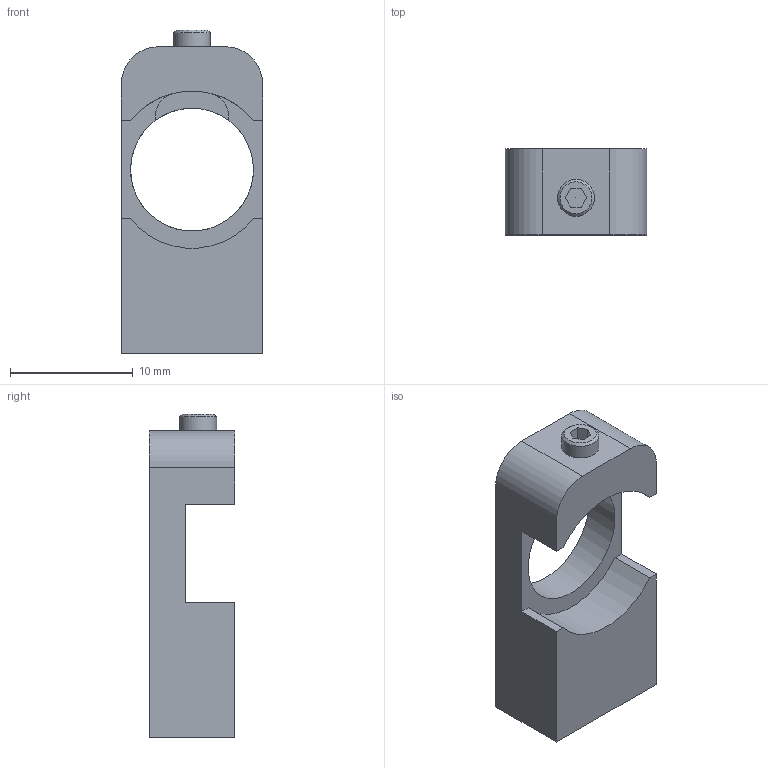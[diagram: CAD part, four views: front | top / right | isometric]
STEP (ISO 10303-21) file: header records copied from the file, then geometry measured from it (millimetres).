
FILE_DESCRIPTION(/* description */ (''),/* implementation_level */ '2;1');
FILE_NAME(/* name */ 'Y:\3DDATA\2_OpticalHard\01_国内製品\2_Holders\TLH\TLH-12.7-DRi-N\TLH-12.7-Dri-N.stp',/* time_stamp */ '2014-10-21T11:42:08+09:00',/* author */ ('e.nonaka'),/* organization */ (''),/* preprocessor_version */ 'ST-DEVELOPER v15.2',/* originating_system */ 'Autodesk Inventor 2014',/* authorisation */ '');
FILE_SCHEMA (('AUTOMOTIVE_DESIGN { 1 0 10303 214 3 1 1 }'));
Length unit declared in the file: millimetre
Products named in the file (1): TLH12.7DriN-M02-13001-TS01
Bounding box: 11.5 x 7 x 26.36 mm (x, y, z)
Volume: 1186.1 mm3; surface area: 1145.6 mm2
Topology: 1 solids, 2 shells, 40 faces, 104 edges, 70 vertices
Faces by surface type: plane 26, cylinder 11, cone 3
Full cylindrical faces by diameter (mm): 1.5 x1, 2.459 x1, 3 x1, 3.242 x1, 10 x1
Entity records: 1207 total; most frequent: CARTESIAN_POINT 236, DIRECTION 198, ORIENTED_EDGE 182, EDGE_CURVE 91, AXIS2_PLACEMENT_3D 68, VERTEX_POINT 65, LINE 62, VECTOR 62
